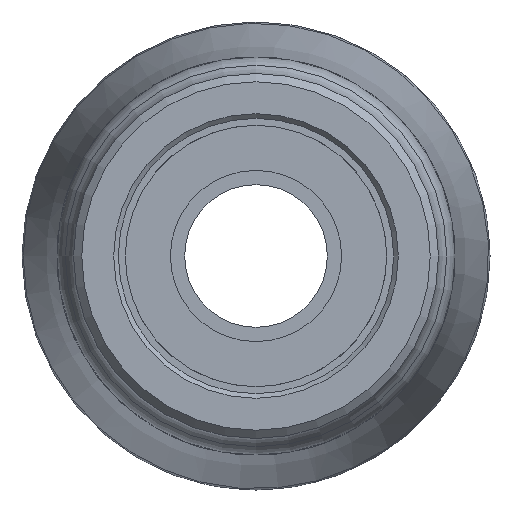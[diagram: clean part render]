
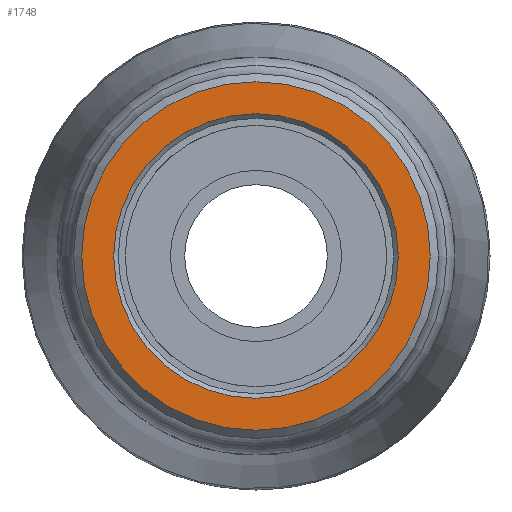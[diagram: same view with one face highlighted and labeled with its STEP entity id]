
A CAD part, left-side view. The second image highlights one B-rep face of the part: STEP entity #1748.
In plain terms, the highlighted planar face has unit normal (-1, 0, 0).
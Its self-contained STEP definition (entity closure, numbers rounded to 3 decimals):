
#192=PLANE('',#1911);
#253=FACE_BOUND('',#411,.T.);
#295=FACE_OUTER_BOUND('',#410,.T.);
#410=EDGE_LOOP('',(#1239));
#411=EDGE_LOOP('',(#1240));
#554=CIRCLE('',#1910,12.469);
#555=CIRCLE('',#1912,15.266);
#742=VERTEX_POINT('',#3033);
#743=VERTEX_POINT('',#3036);
#926=EDGE_CURVE('',#742,#742,#554,.T.);
#927=EDGE_CURVE('',#743,#743,#555,.T.);
#1239=ORIENTED_EDGE('',*,*,#927,.F.);
#1240=ORIENTED_EDGE('',*,*,#926,.F.);
#1748=ADVANCED_FACE('',(#295,#253),#192,.T.);
#1910=AXIS2_PLACEMENT_3D('',#3034,#2213,#2214);
#1911=AXIS2_PLACEMENT_3D('',#3035,#2215,#2216);
#1912=AXIS2_PLACEMENT_3D('',#3037,#2217,#2218);
#2213=DIRECTION('center_axis',(-1.,0.,0.));
#2214=DIRECTION('ref_axis',(0.,-1.,0.));
#2215=DIRECTION('center_axis',(-1.,0.,0.));
#2216=DIRECTION('ref_axis',(0.,0.,1.));
#2217=DIRECTION('center_axis',(1.,0.,0.));
#2218=DIRECTION('ref_axis',(0.,-1.,0.));
#3033=CARTESIAN_POINT('',(0.,12.469,0.));
#3034=CARTESIAN_POINT('Origin',(0.,0.,0.));
#3035=CARTESIAN_POINT('Origin',(0.,15.99,0.));
#3036=CARTESIAN_POINT('',(0.,15.266,0.));
#3037=CARTESIAN_POINT('Origin',(0.,0.,0.));
